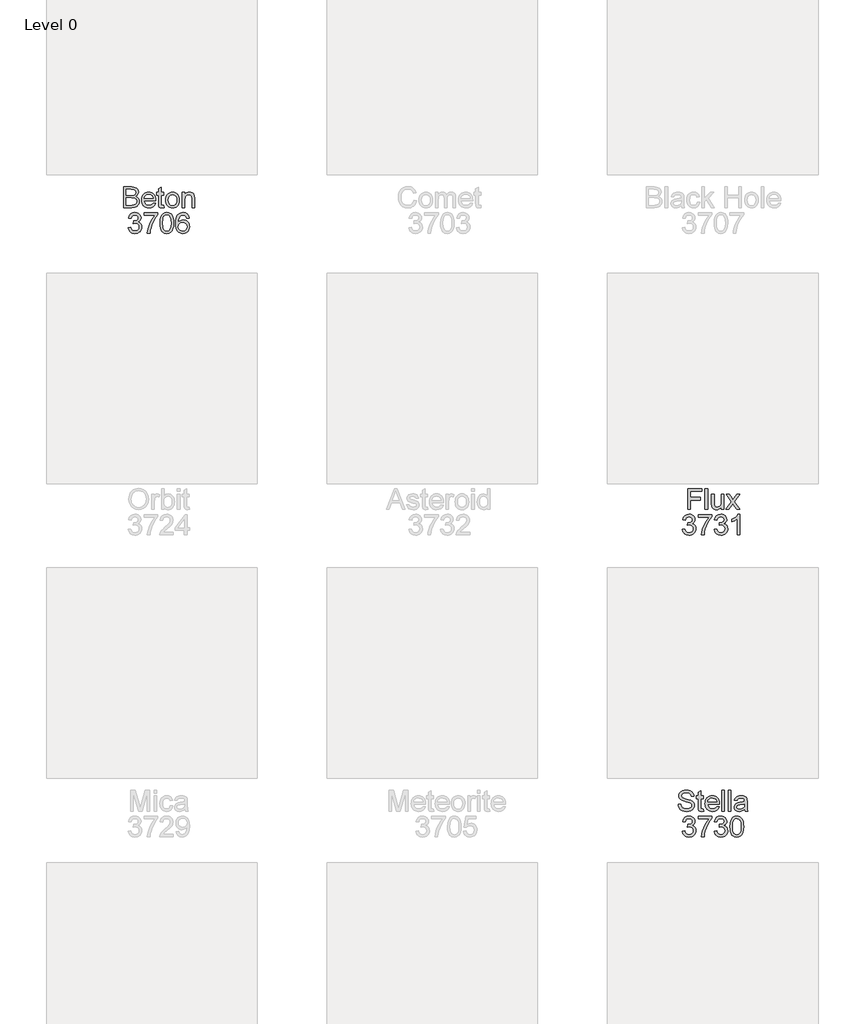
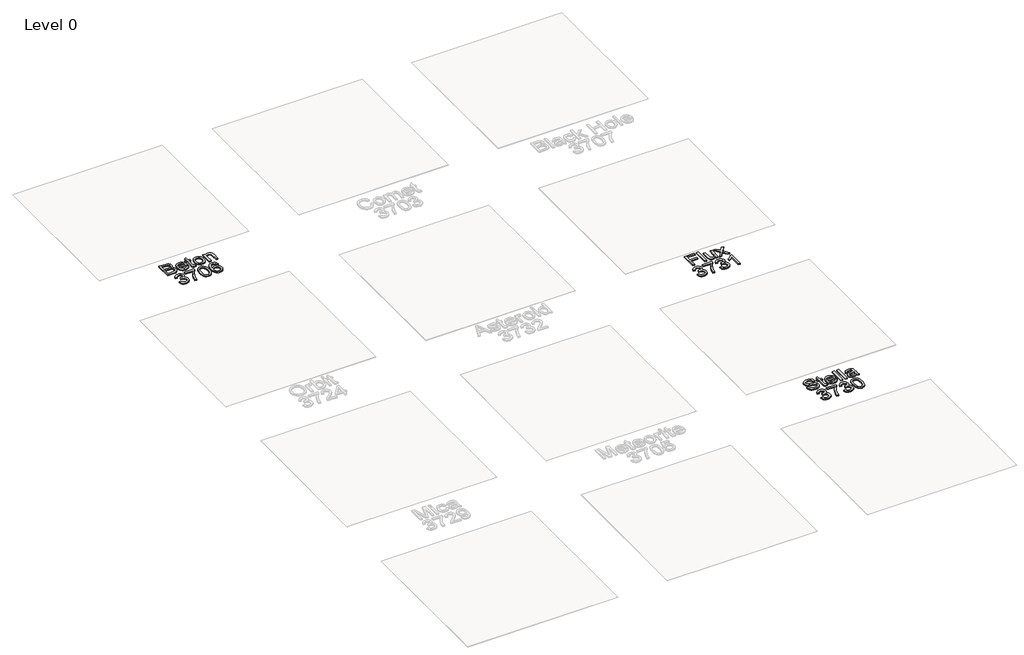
# One storey, part 9 of 14: 3 proxies.
"""IFC4 building model written with IfcOpenShell, lengths in millimetres."""

from ifc_helpers import new_model, si_unit, origin, origin_with_axes, place, context, project, spatial, polyline, outline, extrude, element, save

model = new_model("IFC4")

# Units and contexts
model_context = context("Model", 3, world=origin())
ifc_project = project(units=[si_unit("LENGTHUNIT", "METRE", prefix="MILLI")], contexts=[model_context])

# Site, building, storey
site = spatial("IfcSite", under=ifc_project)
building = spatial("IfcBuilding", under=site)
storey = spatial("IfcBuildingStorey", under=building, Name="Level 0", Elevation=0.0)

# Proxies
placement = place(None, origin())
element("IfcBuildingElementProxy", 1, Name="300mm Arial", ObjectType="300mm Arial", at=placement, inside=storey, context=model_context, shape_type="SweptSolid", body=[
    extrude(outline(polyline([(-353.1137264, -6437.1730179), (-353.1137264, -6141.7884025), (-240.3973802, -6141.7884025), (-209.3967792, -6143.9608784), (-185.1930533, -6150.4783063), (-166.6413706, -6161.5029457), (-152.5968994, -6177.1970563), (-143.7537504, -6195.6585948), (-140.806034, -6214.9855179), (-143.2850004, -6232.7709746), (-150.7218994, -6249.4927294), (-163.1708177, -6264.123138), (-180.6858417, -6275.6345563), (-159.7633658, -6286.5600371), (-144.3036302, -6303.1826332), (-134.7573562, -6324.4025852), (-131.5752648, -6349.1201332), (-133.7477408, -6369.71809), (-140.2651687, -6388.8196525), (-149.9917312, -6405.0636429), (-161.791611, -6417.0888832), (-176.2417312, -6425.7968159), (-193.9190148, -6432.0888832), (-241.2627648, -6437.1730179), (-353.1137264, -6437.1730179)]), holes=[polyline([(-316.1906494, -6400.2499409), (-240.4694956, -6400.2499409), (-213.0656494, -6398.8076332), (-189.8805533, -6390.7667679), (-174.5199764, -6374.3605179), (-170.0037504, -6362.7679698), (-168.4983417, -6349.4807102), (-170.2651687, -6334.0480179), (-175.5656494, -6320.7787871), (-184.8234619, -6310.4031861), (-198.462284, -6303.6513832), (-217.7801927, -6299.9464554), (-244.0752648, -6298.7114794), (-316.1906494, -6298.7114794), (-316.1906494, -6400.2499409)]), polyline([(-316.1906494, -6261.7884025), (-248.7627648, -6261.7884025), (-209.3877648, -6258.6153255), (-195.6047119, -6253.1435707), (-185.697861, -6244.9494602), (-179.7212985, -6234.1591957), (-177.729111, -6220.8989794), (-179.5860821, -6208.0263832), (-185.1569956, -6196.8124409), (-194.1894475, -6188.0594361), (-206.431034, -6182.5696525), (-253.8829571, -6178.7114794), (-316.1906494, -6178.7114794), (-316.1906494, -6261.7884025)])]), origin_with_axes(), (0.0, 0.0, 1.0), 20.0),
    extrude(outline(polyline([(66.4535813, -6372.5576332), (102.6555044, -6377.1730179), (89.6116342, -6404.4506621), (68.7973313, -6424.8412871), (40.6813458, -6437.5516236), (5.7324275, -6441.7884025), (-17.1777288, -6439.9607282), (-37.5908898, -6434.4777054), (-55.5070557, -6425.339334), (-70.9262264, -6412.545614), (-83.3255653, -6396.4526152), (-92.182236, -6377.4164073), (-97.4962384, -6355.4369902), (-99.2675725, -6330.514364), (-97.4782095, -6304.7466356), (-92.1101206, -6282.0347967), (-83.1633057, -6262.3788472), (-70.6377648, -6245.7787871), (-55.259159, -6232.5906861), (-37.7531494, -6223.170614), (-18.119736, -6217.5185707), (3.6410813, -6215.6345563), (24.7010273, -6217.5140635), (43.7462496, -6223.1525852), (60.7767484, -6232.5501212), (75.7925236, -6245.7066717), (88.0498854, -6262.2706741), (96.8051438, -6281.8905659), (102.0582989, -6304.5663472), (103.8093506, -6330.2980179), (103.5930044, -6340.2499409), (-62.3444956, -6340.2499409), (-55.9532696, -6367.8881621), (-41.1065148, -6388.2066717), (-19.6792312, -6400.7006621), (6.4535813, -6404.8653255), (26.1050236, -6402.936239), (42.6555044, -6397.1489794), (56.1050236, -6387.1429698), (66.4535813, -6372.5576332)]), holes=[polyline([(-62.3444956, -6303.326864), (66.8862736, -6303.326864), (61.8922833, -6283.8196525), (52.1026198, -6269.8653255), (30.5761775, -6256.8845563), (3.4968506, -6252.5576332), (-21.3919715, -6256.0101573), (-41.9718994, -6266.3677294), (-56.2777889, -6282.5125611), (-62.3444956, -6303.326864)])]), origin_with_axes(), (0.0, 0.0, 1.0), 20.0),
    extrude(outline(polyline([(219.193966, -6406.3797486), (223.8093506, -6438.2547486), (196.1891583, -6441.7884025), (178.4668025, -6440.2559505), (165.2516583, -6435.6585948), (155.912716, -6428.5732582), (149.818966, -6419.576864), (146.4656006, -6404.1261429), (145.3478121, -6377.6778255), (145.3478121, -6257.1730179), (117.6555044, -6257.1730179), (117.6555044, -6220.2499409), (145.3478121, -6220.2499409), (145.3478121, -6167.5335948), (182.270889, -6145.826864), (182.270889, -6220.2499409), (219.193966, -6220.2499409), (219.193966, -6257.1730179), (182.270889, -6257.1730179), (182.270889, -6376.5960948), (184.2180044, -6395.6345563), (190.5281006, -6402.3773448), (203.1122352, -6404.8653255), (219.193966, -6406.3797486)])), origin_with_axes(), (0.0, 0.0, 1.0), 20.0),
    extrude(outline(polyline([(246.8862736, -6328.7114794), (248.8829684, -6300.6180299), (254.8730525, -6276.4097967), (264.8565261, -6256.0867799), (278.833389, -6239.6489794), (292.9049035, -6229.1426693), (308.4367544, -6221.6381621), (325.4289419, -6217.1354578), (343.881466, -6215.6345563), (364.2518085, -6217.4622306), (382.6705285, -6222.9452534), (399.1376258, -6232.0836248), (413.6531006, -6244.8773448), (425.5003061, -6260.893721), (433.9625958, -6279.7000611), (439.0399696, -6301.2963652), (440.7324275, -6325.6826332), (437.739639, -6362.9843159), (428.7612736, -6391.3797486), (414.0587496, -6412.6447727), (393.8934852, -6428.5552294), (369.9421631, -6438.4801092), (343.881466, -6441.7884025), (323.2136474, -6439.967489), (304.6236535, -6434.5047486), (288.111484, -6425.4001813), (273.677139, -6412.6537871), (261.9561354, -6396.4819121), (253.58399, -6377.1009025), (248.5607027, -6354.5107582), (246.8862736, -6328.7114794)]), holes=[polyline([(283.8093506, -6328.639364), (288.0821871, -6362.0558304), (300.9006967, -6385.8629217), (320.1915621, -6400.1147246), (343.881466, -6404.8653255), (367.4631967, -6400.0876813), (386.7180044, -6385.7547486), (399.536514, -6361.6321525), (403.8093506, -6327.4855179), (399.5094708, -6295.0426092), (386.6098313, -6271.5600371), (367.3279804, -6257.3082342), (343.881466, -6252.5576332), (320.1915621, -6257.2902054), (300.9006967, -6271.4879217), (288.0821871, -6295.2409265), (283.8093506, -6328.639364)])]), origin_with_axes(), (0.0, 0.0, 1.0), 20.0),
    extrude(outline(polyline([(482.270889, -6437.1730179), (482.270889, -6220.2499409), (519.193966, -6220.2499409), (519.193966, -6250.5384025), (532.02149, -6235.2679698), (547.427139, -6224.3605179), (565.4109131, -6217.8160467), (585.9728121, -6215.6345563), (604.1729323, -6217.3923688), (620.8406006, -6222.6658063), (634.740841, -6230.7968159), (644.6386775, -6241.1273448), (655.708389, -6268.2787871), (657.6555044, -6303.9759025), (657.6555044, -6437.1730179), (620.7324275, -6437.1730179), (620.7324275, -6308.951864), (616.4776198, -6276.2835948), (610.5912015, -6266.5570323), (601.4415621, -6259.0119602), (589.7137977, -6254.171215), (576.0930044, -6252.5576332), (554.4674035, -6256.1814313), (536.0329083, -6267.0528255), (528.665871, -6275.9275251), (523.4037015, -6288.0564313), (519.193966, -6322.076864), (519.193966, -6437.1730179), (482.270889, -6437.1730179)])), origin_with_axes(), (0.0, 0.0, 1.0), 20.0),
    extrude(outline(polyline([(-286.1906494, -6723.326864), (-249.2675725, -6718.7114794), (-241.0013465, -6741.9146044), (-228.8949764, -6757.5816717), (-212.35351, -6766.5059505), (-190.7819956, -6769.4807102), (-165.4694956, -6765.3881621), (-145.9262264, -6753.1105179), (-133.432236, -6734.7932102), (-129.2675725, -6712.5816717), (-133.3961783, -6691.4969361), (-145.7819956, -6674.3965755), (-164.5319956, -6663.0654457), (-187.7531494, -6659.2884025), (-213.6425725, -6663.326864), (-209.5319956, -6626.4037871), (-203.618534, -6626.8364794), (-181.4971398, -6624.186239), (-161.7194956, -6616.2355179), (-147.7651687, -6602.7859986), (-143.1137264, -6583.639364), (-146.4851206, -6567.6928496), (-156.5993033, -6554.7571525), (-172.0319956, -6546.1844361), (-191.3589187, -6543.326864), (-210.7218994, -6546.2114794), (-226.5512264, -6554.8653255), (-238.1077167, -6569.2884025), (-244.6521879, -6589.4807102), (-281.5752648, -6584.8653255), (-270.7038706, -6551.7102775), (-251.3589187, -6526.9566717), (-224.8925725, -6511.5420082), (-192.6569956, -6506.4037871), (-169.4448562, -6508.93684), (-148.1257456, -6516.5359986), (-130.150986, -6528.5251813), (-116.9718994, -6544.2283063), (-108.8859619, -6562.3202534), (-106.1906494, -6581.4759025), (-108.7507456, -6599.3244602), (-116.431034, -6615.514364), (-129.1233417, -6629.3064313), (-146.7194956, -6639.9614794), (-123.6065148, -6649.3004217), (-106.479111, -6665.201864), (-95.8781494, -6686.8004217), (-92.3444956, -6713.2307102), (-94.1113225, -6731.9626813), (-99.4118033, -6749.2162871), (-108.2459379, -6764.9915275), (-120.6137264, -6779.2884025), (-135.6813345, -6791.1513832), (-152.6149283, -6799.6249409), (-171.4145076, -6804.7090755), (-192.0800725, -6806.4037871), (-227.7771879, -6800.6165275), (-243.1377648, -6793.3824529), (-256.8396879, -6783.2547486), (-268.3285701, -6770.8283664), (-277.0500244, -6756.6982582), (-286.1906494, -6723.326864)])), origin_with_axes(), (0.0, 0.0, 1.0), 20.0),
    extrude(outline(polyline([(-60.0368033, -6547.9422486), (-60.0368033, -6511.0191717), (133.8093506, -6511.0191717), (133.8093506, -6540.8749409), (106.1801438, -6575.841888), (78.8213698, -6620.3100371), (54.6897592, -6670.2228977), (36.7420429, -6721.5239794), (27.943966, -6759.9073929), (23.0401198, -6801.7884025), (-13.8829571, -6801.7884025), (-9.8895677, -6763.7295082), (0.7925236, -6718.4951332), (17.8748554, -6670.5474169), (41.068966, -6624.3484986), (68.1482929, -6582.5846765), (96.8862736, -6547.9422486), (-60.0368033, -6547.9422486)])), origin_with_axes(), (0.0, 0.0, 1.0), 20.0),
    extrude(outline(polyline([(166.1170429, -6656.4759025), (168.8303842, -6609.1952534), (176.9704083, -6571.4879217), (190.4559852, -6542.7769842), (209.2059852, -6522.4855179), (233.3556246, -6510.4242198), (263.0401198, -6506.4037871), (285.7925236, -6508.7835948), (306.1651198, -6515.9230179), (323.2023794, -6527.5426092), (335.9487736, -6543.3629217), (345.5761775, -6563.248739), (353.256466, -6587.0648448), (358.286514, -6617.3082342), (359.9631967, -6656.4759025), (357.2768986, -6703.4861188), (349.2180044, -6741.1033063), (335.8135573, -6769.8412871), (317.0906006, -6790.2138832), (292.8868746, -6802.3563111), (263.0401198, -6806.4037871), (242.7035813, -6804.6459746), (224.6747352, -6799.3725371), (208.9535813, -6790.5834746), (195.5401198, -6778.2787871), (182.6675236, -6756.0356981), (173.4728121, -6728.3208544), (167.9559852, -6695.1342558), (166.1170429, -6656.4759025)]), holes=[polyline([(203.0401198, -6656.4037871), (207.3670429, -6714.483715), (212.7756967, -6734.3492498), (220.3478121, -6748.0984986), (239.6747352, -6764.1351573), (263.0401198, -6769.4807102), (286.4055044, -6764.1171284), (305.7324275, -6748.0263832), (313.3045429, -6734.2545984), (318.7131967, -6714.3935707), (323.0401198, -6656.4037871), (318.8574275, -6599.6309505), (313.6290621, -6579.8307703), (306.3093506, -6565.7547486), (287.0184852, -6548.9338352), (262.6074275, -6543.326864), (239.4944467, -6548.2667679), (220.9247352, -6563.0864794), (213.100216, -6578.4109986), (207.5112736, -6599.0720563), (203.0401198, -6656.4037871)])]), origin_with_axes(), (0.0, 0.0, 1.0), 20.0),
    extrude(outline(polyline([(581.5016583, -6584.8653255), (544.5785813, -6589.4807102), (538.6290621, -6571.1814313), (530.5881967, -6558.6874409), (513.8393986, -6547.1670082), (493.5930044, -6543.326864), (476.4295429, -6545.5624409), (460.2756967, -6552.2691717), (446.4024996, -6566.3947727), (435.0713698, -6585.8388832), (427.4181246, -6613.341888), (424.5785813, -6651.6441717), (439.3892785, -6634.3635227), (457.1386775, -6622.1850371), (476.8351919, -6614.9644842), (497.4872352, -6612.5576332), (515.2276198, -6614.2027654), (531.5978121, -6619.1381621), (546.5978121, -6627.3638231), (560.2276198, -6638.8797486), (571.5542424, -6653.0008424), (579.6446871, -6669.0420082), (584.4989539, -6687.0032462), (586.1170429, -6706.8845563), (583.0701679, -6733.3238592), (573.9295429, -6757.8340755), (559.4523794, -6778.6213352), (540.395889, -6793.8917679), (517.6254563, -6803.2757823), (492.006466, -6806.4037871), (469.9954984, -6804.3304698), (450.1164419, -6798.1105179), (432.3692965, -6787.7439313), (416.7540621, -6773.2307102), (404.0234431, -6753.9578736), (394.9301438, -6729.3124409), (389.4741643, -6699.2944121), (387.6555044, -6663.9037871), (389.6747352, -6624.2268039), (395.7324275, -6590.3641236), (405.8285813, -6562.3157462), (419.9631967, -6540.0816717), (435.2832087, -6525.3475972), (453.0461294, -6514.8232582), (473.2519587, -6508.5086549), (495.9006967, -6506.4037871), (528.2985333, -6511.6141236), (554.2420429, -6527.2451332), (572.4151198, -6552.0708544), (581.5016583, -6584.8653255)]), holes=[polyline([(424.5785813, -6706.3076332), (426.7149996, -6722.6688111), (433.1242544, -6738.2908063), (443.0761775, -6751.7222967), (455.8406006, -6761.5119602), (471.2462496, -6767.4885227), (489.1218506, -6769.4807102), (513.4878361, -6765.3521044), (532.6434852, -6752.9662871), (545.0563458, -6733.4951332), (549.193966, -6708.1105179), (545.1104323, -6683.7445323), (532.8598313, -6665.1658063), (513.3796631, -6653.4019842), (487.6074275, -6649.4807102), (463.2774996, -6653.4019842), (442.9319467, -6665.1658063), (429.1669227, -6683.2938111), (424.5785813, -6706.3076332)])]), origin_with_axes(), (0.0, 0.0, 1.0), 20.0),
])
element("IfcBuildingElementProxy", 2, Name="300mm Arial", ObjectType="300mm Arial", at=placement, inside=storey, context=model_context, shape_type="SweptSolid", body=[
    extrude(outline(polyline([(7692.270889, -10737.1730179), (7692.270889, -10441.7884025), (7890.7324275, -10441.7884025), (7890.7324275, -10478.7114794), (7729.193966, -10478.7114794), (7729.193966, -10566.4037871), (7867.6555044, -10566.4037871), (7867.6555044, -10603.326864), (7729.193966, -10603.326864), (7729.193966, -10737.1730179), (7692.270889, -10737.1730179)])), origin_with_axes(), (0.0, 0.0, 1.0), 20.0),
    extrude(outline(polyline([(7936.8862736, -10737.1730179), (7936.8862736, -10441.7884025), (7973.8093506, -10441.7884025), (7973.8093506, -10737.1730179), (7936.8862736, -10737.1730179)])), origin_with_axes(), (0.0, 0.0, 1.0), 20.0),
    extrude(outline(polyline([(8167.6555044, -10737.1730179), (8167.6555044, -10699.889364), (8154.2961294, -10718.2201933), (8138.7372352, -10731.3136429), (8120.9788217, -10739.1697126), (8101.020889, -10741.7884025), (8083.037115, -10739.9494602), (8066.2973313, -10734.4326332), (8052.2528602, -10726.139364), (8042.3550236, -10715.9710948), (8031.3574275, -10688.7835948), (8029.193966, -10654.4566717), (8029.193966, -10520.2499409), (8066.1170429, -10520.2499409), (8066.1170429, -10637.076864), (8068.3526198, -10674.7210948), (8073.7342304, -10687.2781861), (8082.9559852, -10696.8244602), (8095.4049035, -10702.8551092), (8110.4680044, -10704.8653255), (8126.39649, -10702.8100371), (8141.2973313, -10696.6441717), (8153.58399, -10686.935638), (8161.6699275, -10674.2523448), (8166.1591102, -10656.8815515), (8167.6555044, -10633.1105179), (8167.6555044, -10520.2499409), (8204.5785813, -10520.2499409), (8204.5785813, -10737.1730179), (8167.6555044, -10737.1730179)])), origin_with_axes(), (0.0, 0.0, 1.0), 20.0),
    extrude(outline(polyline([(8232.270889, -10737.1730179), (8311.1651198, -10628.1345563), (8236.8862736, -10520.2499409), (8281.3093506, -10520.2499409), (8317.1506967, -10572.1730179), (8333.881466, -10596.6922486), (8348.3766583, -10576.6441717), (8389.193966, -10520.2499409), (8433.6170429, -10520.2499409), (8355.5881967, -10628.1345563), (8430.7324275, -10737.1730179), (8386.3093506, -10737.1730179), (8341.0930044, -10671.6201332), (8332.7997352, -10659.6489794), (8276.693966, -10737.1730179), (8232.270889, -10737.1730179)])), origin_with_axes(), (0.0, 0.0, 1.0), 20.0),
    extrude(outline(polyline([(7613.8093506, -11023.326864), (7650.7324275, -11018.7114794), (7658.9986535, -11041.9146044), (7671.1050236, -11057.5816717), (7687.64649, -11066.5059505), (7709.2180044, -11069.4807102), (7734.5305044, -11065.3881621), (7754.0737736, -11053.1105179), (7766.567764, -11034.7932102), (7770.7324275, -11012.5816717), (7766.6038217, -10991.4969361), (7754.2180044, -10974.3965755), (7735.4680044, -10963.0654457), (7712.2468506, -10959.2884025), (7686.3574275, -10963.326864), (7690.4680044, -10926.4037871), (7696.381466, -10926.8364794), (7718.5028602, -10924.186239), (7738.2805044, -10916.2355179), (7752.2348313, -10902.7859986), (7756.8862736, -10883.639364), (7753.5148794, -10867.6928496), (7743.4006967, -10854.7571525), (7727.9680044, -10846.1844361), (7708.6410813, -10843.326864), (7689.2781006, -10846.2114794), (7673.4487736, -10854.8653255), (7661.8922833, -10869.2884025), (7655.3478121, -10889.4807102), (7618.4247352, -10884.8653255), (7629.2961294, -10851.7102775), (7648.6410813, -10826.9566717), (7675.1074275, -10811.5420082), (7707.3430044, -10806.4037871), (7730.5551438, -10808.93684), (7751.8742544, -10816.5359986), (7769.849014, -10828.5251813), (7783.0281006, -10844.2283063), (7791.1140381, -10862.3202534), (7793.8093506, -10881.4759025), (7791.2492544, -10899.3244602), (7783.568966, -10915.514364), (7770.8766583, -10929.3064313), (7753.2805044, -10939.9614794), (7776.3934852, -10949.3004217), (7793.520889, -10965.201864), (7804.1218506, -10986.8004217), (7807.6555044, -11013.2307102), (7805.8886775, -11031.9626813), (7800.5881967, -11049.2162871), (7791.7540621, -11064.9915275), (7779.3862736, -11079.2884025), (7764.3186655, -11091.1513832), (7747.3850717, -11099.6249409), (7728.5854924, -11104.7090755), (7707.9199275, -11106.4037871), (7672.2228121, -11100.6165275), (7656.8622352, -11093.3824529), (7643.1603121, -11083.2547486), (7631.6714299, -11070.8283664), (7622.9499756, -11056.6982582), (7613.8093506, -11023.326864)])), origin_with_axes(), (0.0, 0.0, 1.0), 20.0),
    extrude(outline(polyline([(7839.9631967, -10847.9422486), (7839.9631967, -10811.0191717), (8033.8093506, -10811.0191717), (8033.8093506, -10840.8749409), (8006.1801438, -10875.841888), (7978.8213698, -10920.3100371), (7954.6897592, -10970.2228977), (7936.7420429, -11021.5239794), (7927.943966, -11059.9073929), (7923.0401198, -11101.7884025), (7886.1170429, -11101.7884025), (7890.1104323, -11063.7295082), (7900.7925236, -11018.4951332), (7917.8748554, -10970.5474169), (7941.068966, -10924.3484986), (7968.1482929, -10882.5846765), (7996.8862736, -10847.9422486), (7839.9631967, -10847.9422486)])), origin_with_axes(), (0.0, 0.0, 1.0), 20.0),
    extrude(outline(polyline([(8066.1170429, -11023.326864), (8103.0401198, -11018.7114794), (8111.3063458, -11041.9146044), (8123.412716, -11057.5816717), (8139.9541823, -11066.5059505), (8161.5256967, -11069.4807102), (8186.8381967, -11065.3881621), (8206.381466, -11053.1105179), (8218.8754563, -11034.7932102), (8223.0401198, -11012.5816717), (8218.911514, -10991.4969361), (8206.5256967, -10974.3965755), (8187.7756967, -10963.0654457), (8164.5545429, -10959.2884025), (8138.6651198, -10963.326864), (8142.7756967, -10926.4037871), (8148.6891583, -10926.8364794), (8170.8105525, -10924.186239), (8190.5881967, -10916.2355179), (8204.5425236, -10902.7859986), (8209.193966, -10883.639364), (8205.8225717, -10867.6928496), (8195.708389, -10854.7571525), (8180.2756967, -10846.1844361), (8160.9487736, -10843.326864), (8141.5857929, -10846.2114794), (8125.756466, -10854.8653255), (8114.1999756, -10869.2884025), (8107.6555044, -10889.4807102), (8070.7324275, -10884.8653255), (8081.6038217, -10851.7102775), (8100.9487736, -10826.9566717), (8127.4151198, -10811.5420082), (8159.6506967, -10806.4037871), (8182.8628361, -10808.93684), (8204.1819467, -10816.5359986), (8222.1567063, -10828.5251813), (8235.3357929, -10844.2283063), (8243.4217304, -10862.3202534), (8246.1170429, -10881.4759025), (8243.5569467, -10899.3244602), (8235.8766583, -10915.514364), (8223.1843506, -10929.3064313), (8205.5881967, -10939.9614794), (8228.7011775, -10949.3004217), (8245.8285813, -10965.201864), (8256.4295429, -10986.8004217), (8259.9631967, -11013.2307102), (8258.1963698, -11031.9626813), (8252.895889, -11049.2162871), (8244.0617544, -11064.9915275), (8231.693966, -11079.2884025), (8216.6263578, -11091.1513832), (8199.692764, -11099.6249409), (8180.8931847, -11104.7090755), (8160.2276198, -11106.4037871), (8124.5305044, -11100.6165275), (8109.1699275, -11093.3824529), (8095.4680044, -11083.2547486), (8083.9791222, -11070.8283664), (8075.2576679, -11056.6982582), (8066.1170429, -11023.326864)])), origin_with_axes(), (0.0, 0.0, 1.0), 20.0),
    extrude(outline(polyline([(8430.7324275, -11101.7884025), (8393.8093506, -11101.7884025), (8393.8093506, -10871.5960948), (8358.833389, -10896.5119602), (8319.9631967, -10915.1537871), (8319.9631967, -10880.2499409), (8348.9625958, -10864.4747005), (8374.0857929, -10845.7066717), (8393.8904804, -10825.748739), (8406.9343506, -10806.4037871), (8430.7324275, -10806.4037871), (8430.7324275, -11101.7884025)])), origin_with_axes(), (0.0, 0.0, 1.0), 20.0),
])
element("IfcBuildingElementProxy", 3, Name="300mm Arial", ObjectType="300mm Arial", at=placement, inside=storey, context=model_context, shape_type="SweptSolid", body=[
    extrude(outline(polyline([(7553.8093506, -14935.6345563), (7590.7324275, -14935.6345563), (7594.9692063, -14956.12434), (7602.631466, -14972.5936909), (7614.584591, -14985.6646044), (7631.693966, -14995.9590755), (7652.6074275, -15002.638763), (7675.9728121, -15004.8653255), (7696.5437256, -15003.1796284), (7714.5545429, -14998.1225371), (7729.1488938, -14990.1177294), (7739.4704083, -14979.5888832), (7745.6092304, -14967.5005419), (7747.6555044, -14954.8172486), (7746.1230525, -14942.4584746), (7741.5256967, -14931.7763832), (7732.1867544, -14922.6628015), (7716.4295429, -14915.0095563), (7662.6675236, -14900.9109986), (7627.3760573, -14891.5810707), (7604.7949275, -14882.701864), (7586.4145188, -14870.279989), (7573.3886775, -14855.2259025), (7565.6272592, -14837.8641236), (7563.0401198, -14818.5191717), (7566.24024, -14796.8935707), (7575.8406006, -14776.7283063), (7591.5887977, -14759.6369602), (7613.2324275, -14747.233114), (7639.2119948, -14739.6880419), (7667.9680044, -14737.1730179), (7699.1218506, -14739.8052294), (7726.381466, -14747.701864), (7748.7732929, -14760.7006621), (7765.3237736, -14778.639364), (7775.7985333, -14800.4001813), (7779.9631967, -14824.8653255), (7743.0401198, -14824.8653255), (7736.2612736, -14802.8340755), (7722.1266583, -14786.9326332), (7700.0413217, -14777.3052294), (7669.4103121, -14774.0960948), (7638.0581486, -14777.2691717), (7616.5497352, -14786.7884025), (7604.1098313, -14800.7968159), (7599.9631967, -14817.4374409), (7602.9018986, -14831.6261429), (7611.7180044, -14843.0384025), (7632.5593506, -14853.2427294), (7672.006466, -14863.6634025), (7737.3430044, -14882.1970563), (7758.3916823, -14895.592489), (7773.0761775, -14912.1249409), (7781.7029804, -14931.6141236), (7784.5785813, -14953.8797486), (7781.2702881, -14976.6411669), (7771.3454083, -14998.0504217), (7755.209591, -15016.4759025), (7733.2684852, -15030.2859986), (7706.8832688, -15038.9128015), (7677.4151198, -15041.7884025), (7641.24024, -15038.6874409), (7611.4656006, -15029.3845563), (7587.7486535, -15013.8436909), (7569.7468506, -14992.0287871), (7558.1903602, -14965.4542679), (7553.8093506, -14935.6345563)])), origin_with_axes(), (0.0, 0.0, 1.0), 20.0),
    extrude(outline(polyline([(7913.8093506, -15006.3797486), (7918.4247352, -15038.2547486), (7890.8045429, -15041.7884025), (7873.0821871, -15040.2559505), (7859.8670429, -15035.6585948), (7850.5281006, -15028.5732582), (7844.4343506, -15019.576864), (7841.0809852, -15004.1261429), (7839.9631967, -14977.6778255), (7839.9631967, -14857.1730179), (7812.270889, -14857.1730179), (7812.270889, -14820.2499409), (7839.9631967, -14820.2499409), (7839.9631967, -14767.5335948), (7876.8862736, -14745.826864), (7876.8862736, -14820.2499409), (7913.8093506, -14820.2499409), (7913.8093506, -14857.1730179), (7876.8862736, -14857.1730179), (7876.8862736, -14976.5960948), (7878.833389, -14995.6345563), (7885.1434852, -15002.3773448), (7897.7276198, -15004.8653255), (7913.8093506, -15006.3797486)])), origin_with_axes(), (0.0, 0.0, 1.0), 20.0),
    extrude(outline(polyline([(8102.6074275, -14972.5576332), (8138.8093506, -14977.1730179), (8125.7654804, -15004.4506621), (8104.9511775, -15024.8412871), (8076.8351919, -15037.5516236), (8041.8862736, -15041.7884025), (8018.9761174, -15039.9607282), (7998.5629563, -15034.4777054), (7980.6467905, -15025.339334), (7965.2276198, -15012.545614), (7952.8282809, -14996.4526152), (7943.9716102, -14977.4164073), (7938.6576078, -14955.4369902), (7936.8862736, -14930.514364), (7938.6756366, -14904.7466356), (7944.0437256, -14882.0347967), (7952.9905405, -14862.3788472), (7965.5160813, -14845.7787871), (7980.8946871, -14832.5906861), (7998.4006967, -14823.170614), (8018.0341102, -14817.5185707), (8039.7949275, -14815.6345563), (8060.8548734, -14817.5140635), (8079.9000958, -14823.1525852), (8096.9305946, -14832.5501212), (8111.9463698, -14845.7066717), (8124.2037316, -14862.2706741), (8132.95899, -14881.8905659), (8138.212145, -14904.5663472), (8139.9631967, -14930.2980179), (8139.7468506, -14940.2499409), (7973.8093506, -14940.2499409), (7980.2005765, -14967.8881621), (7995.0473313, -14988.2066717), (8016.474615, -15000.7006621), (8042.6074275, -15004.8653255), (8062.2588698, -15002.936239), (8078.8093506, -14997.1489794), (8092.2588698, -14987.1429698), (8102.6074275, -14972.5576332)]), holes=[polyline([(7973.8093506, -14903.326864), (8103.0401198, -14903.326864), (8098.0461294, -14883.8196525), (8088.256466, -14869.8653255), (8066.7300236, -14856.8845563), (8039.6506967, -14852.5576332), (8014.7618746, -14856.0101573), (7994.1819467, -14866.3677294), (7979.8760573, -14882.5125611), (7973.8093506, -14903.326864)])]), origin_with_axes(), (0.0, 0.0, 1.0), 20.0),
    extrude(outline(polyline([(8176.8862736, -15037.1730179), (8176.8862736, -14741.7884025), (8213.8093506, -14741.7884025), (8213.8093506, -15037.1730179), (8176.8862736, -15037.1730179)])), origin_with_axes(), (0.0, 0.0, 1.0), 20.0),
    extrude(outline(polyline([(8269.193966, -15037.1730179), (8269.193966, -14741.7884025), (8306.1170429, -14741.7884025), (8306.1170429, -15037.1730179), (8269.193966, -15037.1730179)])), origin_with_axes(), (0.0, 0.0, 1.0), 20.0),
    extrude(outline(polyline([(8499.9631967, -15009.4807102), (8482.3219708, -15024.6069121), (8464.1579083, -15034.5047486), (8445.0563458, -15039.967489), (8424.6026198, -15041.7884025), (8393.7462496, -15037.4073929), (8370.9848313, -15024.264364), (8356.9493746, -15004.3064313), (8352.270889, -14979.4807102), (8354.037716, -14964.1742198), (8359.3381967, -14950.2739794), (8367.5142785, -14938.3749409), (8377.9079083, -14929.0720563), (8403.7612736, -14916.9566717), (8435.708389, -14911.4037871), (8473.4607929, -14905.5624409), (8499.7468506, -14898.7114794), (8499.9631967, -14890.4903255), (8497.4211294, -14874.0119602), (8489.7949275, -14863.2307102), (8472.739639, -14855.2259025), (8448.9776198, -14852.5576332), (8426.9824275, -14854.3334746), (8411.6218506, -14859.6609986), (8401.147091, -14869.513763), (8393.8093506, -14884.8653255), (8356.8862736, -14880.2499409), (8363.2955285, -14860.0576332), (8372.8598313, -14844.1922486), (8386.4716102, -14832.0588352), (8405.0232929, -14823.0624409), (8427.7125958, -14817.4915275), (8453.7372352, -14815.6345563), (8478.6981727, -14817.2751813), (8498.4848313, -14822.1970563), (8513.4037015, -14829.5978977), (8523.7612736, -14838.6754217), (8530.630264, -14849.8983784), (8535.083389, -14863.7355179), (8536.8862736, -14896.0432102), (8536.8862736, -14941.9807102), (8538.7612736, -15006.1273448), (8546.1170429, -15037.1730179), (8509.193966, -15037.1730179), (8499.9631967, -15009.4807102)]), holes=[polyline([(8499.9631967, -14935.6345563), (8440.395889, -14946.9566717), (8408.6290621, -14952.9422486), (8394.2420429, -14962.6778255), (8389.193966, -14976.8845563), (8391.943365, -14987.8641236), (8400.1915621, -14996.8605179), (8413.7582688, -15002.8641236), (8432.4631967, -15004.8653255), (8452.2949275, -15002.6567919), (8469.818966, -14996.0311909), (8484.0256967, -14986.2685707), (8493.9055044, -14974.6489794), (8498.286514, -14962.6778255), (8499.7468506, -14946.0912871), (8499.9631967, -14935.6345563)])]), origin_with_axes(), (0.0, 0.0, 1.0), 20.0),
    extrude(outline(polyline([(7613.8093506, -15323.326864), (7650.7324275, -15318.7114794), (7658.9986535, -15341.9146044), (7671.1050236, -15357.5816717), (7687.64649, -15366.5059505), (7709.2180044, -15369.4807102), (7734.5305044, -15365.3881621), (7754.0737736, -15353.1105179), (7766.567764, -15334.7932102), (7770.7324275, -15312.5816717), (7766.6038217, -15291.4969361), (7754.2180044, -15274.3965755), (7735.4680044, -15263.0654457), (7712.2468506, -15259.2884025), (7686.3574275, -15263.326864), (7690.4680044, -15226.4037871), (7696.381466, -15226.8364794), (7718.5028602, -15224.186239), (7738.2805044, -15216.2355179), (7752.2348313, -15202.7859986), (7756.8862736, -15183.639364), (7753.5148794, -15167.6928496), (7743.4006967, -15154.7571525), (7727.9680044, -15146.1844361), (7708.6410813, -15143.326864), (7689.2781006, -15146.2114794), (7673.4487736, -15154.8653255), (7661.8922833, -15169.2884025), (7655.3478121, -15189.4807102), (7618.4247352, -15184.8653255), (7629.2961294, -15151.7102775), (7648.6410813, -15126.9566717), (7675.1074275, -15111.5420082), (7707.3430044, -15106.4037871), (7730.5551438, -15108.93684), (7751.8742544, -15116.5359986), (7769.849014, -15128.5251813), (7783.0281006, -15144.2283063), (7791.1140381, -15162.3202534), (7793.8093506, -15181.4759025), (7791.2492544, -15199.3244602), (7783.568966, -15215.514364), (7770.8766583, -15229.3064313), (7753.2805044, -15239.9614794), (7776.3934852, -15249.3004217), (7793.520889, -15265.201864), (7804.1218506, -15286.8004217), (7807.6555044, -15313.2307102), (7805.8886775, -15331.9626813), (7800.5881967, -15349.2162871), (7791.7540621, -15364.9915275), (7779.3862736, -15379.2884025), (7764.3186655, -15391.1513832), (7747.3850717, -15399.6249409), (7728.5854924, -15404.7090755), (7707.9199275, -15406.4037871), (7672.2228121, -15400.6165275), (7656.8622352, -15393.3824529), (7643.1603121, -15383.2547486), (7631.6714299, -15370.8283664), (7622.9499756, -15356.6982582), (7613.8093506, -15323.326864)])), origin_with_axes(), (0.0, 0.0, 1.0), 20.0),
    extrude(outline(polyline([(7839.9631967, -15147.9422486), (7839.9631967, -15111.0191717), (8033.8093506, -15111.0191717), (8033.8093506, -15140.8749409), (8006.1801438, -15175.841888), (7978.8213698, -15220.3100371), (7954.6897592, -15270.2228977), (7936.7420429, -15321.5239794), (7927.943966, -15359.9073929), (7923.0401198, -15401.7884025), (7886.1170429, -15401.7884025), (7890.1104323, -15363.7295082), (7900.7925236, -15318.4951332), (7917.8748554, -15270.5474169), (7941.068966, -15224.3484986), (7968.1482929, -15182.5846765), (7996.8862736, -15147.9422486), (7839.9631967, -15147.9422486)])), origin_with_axes(), (0.0, 0.0, 1.0), 20.0),
    extrude(outline(polyline([(8066.1170429, -15323.326864), (8103.0401198, -15318.7114794), (8111.3063458, -15341.9146044), (8123.412716, -15357.5816717), (8139.9541823, -15366.5059505), (8161.5256967, -15369.4807102), (8186.8381967, -15365.3881621), (8206.381466, -15353.1105179), (8218.8754563, -15334.7932102), (8223.0401198, -15312.5816717), (8218.911514, -15291.4969361), (8206.5256967, -15274.3965755), (8187.7756967, -15263.0654457), (8164.5545429, -15259.2884025), (8138.6651198, -15263.326864), (8142.7756967, -15226.4037871), (8148.6891583, -15226.8364794), (8170.8105525, -15224.186239), (8190.5881967, -15216.2355179), (8204.5425236, -15202.7859986), (8209.193966, -15183.639364), (8205.8225717, -15167.6928496), (8195.708389, -15154.7571525), (8180.2756967, -15146.1844361), (8160.9487736, -15143.326864), (8141.5857929, -15146.2114794), (8125.756466, -15154.8653255), (8114.1999756, -15169.2884025), (8107.6555044, -15189.4807102), (8070.7324275, -15184.8653255), (8081.6038217, -15151.7102775), (8100.9487736, -15126.9566717), (8127.4151198, -15111.5420082), (8159.6506967, -15106.4037871), (8182.8628361, -15108.93684), (8204.1819467, -15116.5359986), (8222.1567063, -15128.5251813), (8235.3357929, -15144.2283063), (8243.4217304, -15162.3202534), (8246.1170429, -15181.4759025), (8243.5569467, -15199.3244602), (8235.8766583, -15215.514364), (8223.1843506, -15229.3064313), (8205.5881967, -15239.9614794), (8228.7011775, -15249.3004217), (8245.8285813, -15265.201864), (8256.4295429, -15286.8004217), (8259.9631967, -15313.2307102), (8258.1963698, -15331.9626813), (8252.895889, -15349.2162871), (8244.0617544, -15364.9915275), (8231.693966, -15379.2884025), (8216.6263578, -15391.1513832), (8199.692764, -15399.6249409), (8180.8931847, -15404.7090755), (8160.2276198, -15406.4037871), (8124.5305044, -15400.6165275), (8109.1699275, -15393.3824529), (8095.4680044, -15383.2547486), (8083.9791222, -15370.8283664), (8075.2576679, -15356.6982582), (8066.1170429, -15323.326864)])), origin_with_axes(), (0.0, 0.0, 1.0), 20.0),
    extrude(outline(polyline([(8292.270889, -15256.4759025), (8294.9842304, -15209.1952534), (8303.1242544, -15171.4879217), (8316.6098313, -15142.7769842), (8335.3598313, -15122.4855179), (8359.5094708, -15110.4242198), (8389.193966, -15106.4037871), (8411.9463698, -15108.7835948), (8432.318966, -15115.9230179), (8449.3562256, -15127.5426092), (8462.1026198, -15143.3629217), (8471.7300236, -15163.248739), (8479.4103121, -15187.0648448), (8484.4403602, -15217.3082342), (8486.1170429, -15256.4759025), (8483.4307448, -15303.4861188), (8475.3718506, -15341.1033063), (8461.9674035, -15369.8412871), (8443.2444467, -15390.2138832), (8419.0407208, -15402.3563111), (8389.193966, -15406.4037871), (8368.8574275, -15404.6459746), (8350.8285813, -15399.3725371), (8335.1074275, -15390.5834746), (8321.693966, -15378.2787871), (8308.8213698, -15356.0356981), (8299.6266583, -15328.3208544), (8294.1098313, -15295.1342558), (8292.270889, -15256.4759025)]), holes=[polyline([(8329.193966, -15256.4037871), (8333.520889, -15314.483715), (8338.9295429, -15334.3492498), (8346.5016583, -15348.0984986), (8365.8285813, -15364.1351573), (8389.193966, -15369.4807102), (8412.5593506, -15364.1171284), (8431.8862736, -15348.0263832), (8439.458389, -15334.2545984), (8444.8670429, -15314.3935707), (8449.193966, -15256.4037871), (8445.0112736, -15199.6309505), (8439.7829083, -15179.8307703), (8432.4631967, -15165.7547486), (8413.1723313, -15148.9338352), (8388.7612736, -15143.326864), (8365.6482929, -15148.2667679), (8347.0785813, -15163.0864794), (8339.2540621, -15178.4109986), (8333.6651198, -15199.0720563), (8329.193966, -15256.4037871)])]), origin_with_axes(), (0.0, 0.0, 1.0), 20.0),
])

save(model, "model.ifc")
